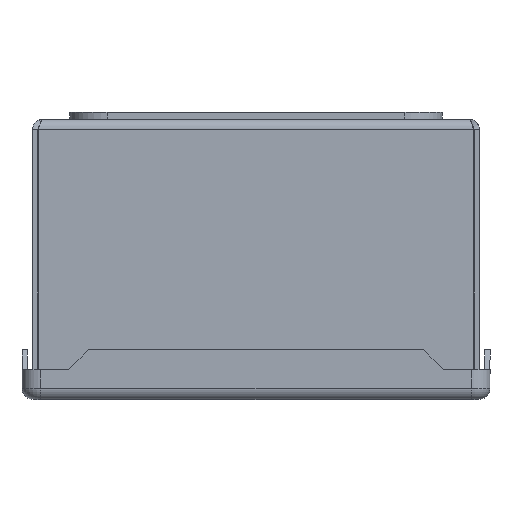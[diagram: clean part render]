
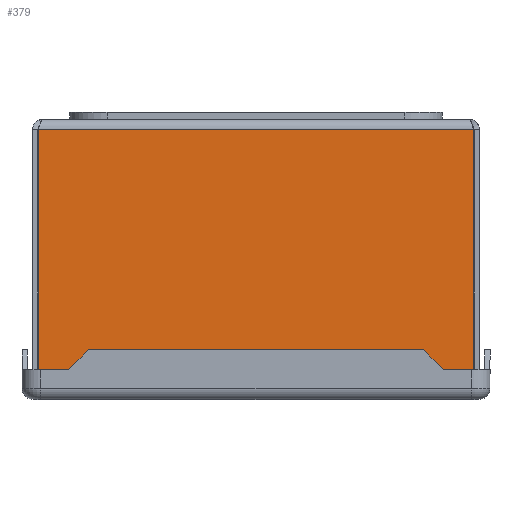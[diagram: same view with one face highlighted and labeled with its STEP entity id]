
A CAD part, front view. The second image highlights one B-rep face of the part: STEP entity #379.
In plain terms, the highlighted planar face has unit normal (0, -1, 0).
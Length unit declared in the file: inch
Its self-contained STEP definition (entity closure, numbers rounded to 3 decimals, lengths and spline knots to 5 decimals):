
#338 = VERTEX_POINT ( 'NONE', #5450 ) ;
#353 = VERTEX_POINT ( 'NONE', #5475 ) ;
#379 = ADVANCED_FACE ( 'NONE', ( #5625 ), #5624, .F. ) ;
#380 = EDGE_LOOP ( 'NONE', ( #381, #385, #387, #388 ) ) ;
#381 = ORIENTED_EDGE ( 'NONE', *, *, #382, .T. ) ;
#382 = EDGE_CURVE ( 'NONE', #383, #384, #5622, .T. ) ;
#383 = VERTEX_POINT ( 'NONE', #5615 ) ;
#384 = VERTEX_POINT ( 'NONE', #5614 ) ;
#385 = ORIENTED_EDGE ( 'NONE', *, *, #386, .F. ) ;
#386 = EDGE_CURVE ( 'NONE', #353, #384, #5613, .T. ) ;
#387 = ORIENTED_EDGE ( 'NONE', *, *, #399, .F. ) ;
#388 = ORIENTED_EDGE ( 'NONE', *, *, #389, .T. ) ;
#389 = EDGE_CURVE ( 'NONE', #338, #383, #5609, .T. ) ;
#399 = EDGE_CURVE ( 'NONE', #338, #353, #5645, .T. ) ;
#5450 = CARTESIAN_POINT ( 'NONE',  ( -2.92178, -4., -0.0645 ) ) ;
#5475 = CARTESIAN_POINT ( 'NONE',  ( 2.92178, -4., -0.0645 ) ) ;
#5606 = DIRECTION ( 'NONE',  ( 0., 0., -1. ) ) ;
#5607 = VECTOR ( 'NONE', #5606, 39.37008 ) ;
#5608 = CARTESIAN_POINT ( 'NONE',  ( -2.92178, -4., -0.0645 ) ) ;
#5609 = LINE ( 'NONE', #5608, #5607 ) ;
#5610 = DIRECTION ( 'NONE',  ( 0., 0., -1. ) ) ;
#5611 = VECTOR ( 'NONE', #5610, 39.37008 ) ;
#5612 = CARTESIAN_POINT ( 'NONE',  ( 2.92178, -4., -0.0645 ) ) ;
#5613 = LINE ( 'NONE', #5612, #5611 ) ;
#5614 = CARTESIAN_POINT ( 'NONE',  ( 2.92178, -4., -3.2915 ) ) ;
#5615 = CARTESIAN_POINT ( 'NONE',  ( -2.92178, -4., -3.2915 ) ) ;
#5616 = DIRECTION ( 'NONE',  ( 1., 0., 0. ) ) ;
#5617 = VECTOR ( 'NONE', #5616, 39.37008 ) ;
#5618 = CARTESIAN_POINT ( 'NONE',  ( -2.92178, -4., -3.2915 ) ) ;
#5619 = DIRECTION ( 'NONE',  ( 0., 0., 1. ) ) ;
#5620 = DIRECTION ( 'NONE',  ( 0., 1., 0. ) ) ;
#5621 = CARTESIAN_POINT ( 'NONE',  ( -2.8635, -4., 0. ) ) ;
#5622 = LINE ( 'NONE', #5618, #5617 ) ;
#5623 = AXIS2_PLACEMENT_3D ( 'NONE', #5621, #5620, #5619 ) ;
#5624 = PLANE ( 'NONE',  #5623 ) ;
#5625 = FACE_OUTER_BOUND ( 'NONE', #380, .T. ) ;
#5642 = DIRECTION ( 'NONE',  ( 1., 0., 0. ) ) ;
#5643 = VECTOR ( 'NONE', #5642, 39.37008 ) ;
#5644 = CARTESIAN_POINT ( 'NONE',  ( 2.8635, -4., -0.0645 ) ) ;
#5645 = LINE ( 'NONE', #5644, #5643 ) ;
